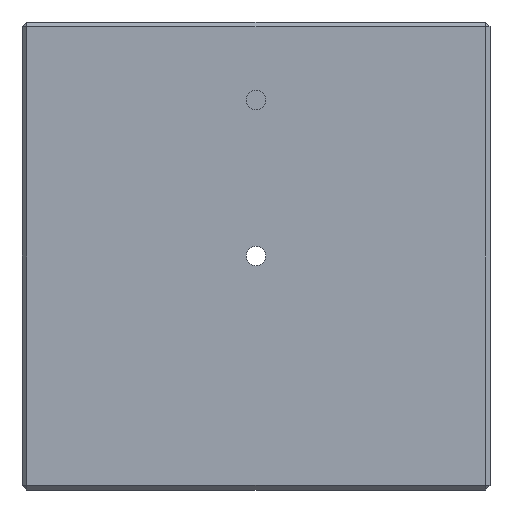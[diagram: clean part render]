
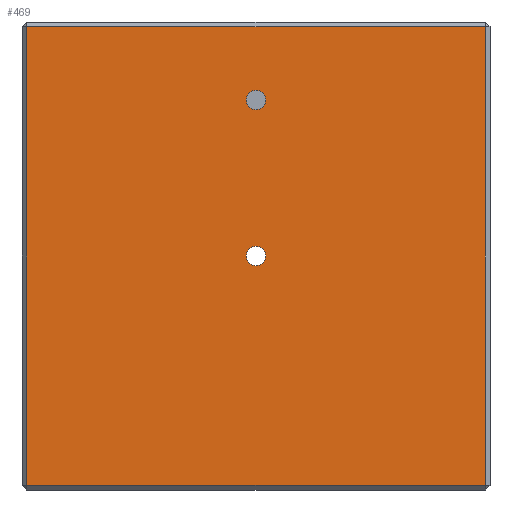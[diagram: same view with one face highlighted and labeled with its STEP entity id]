
A CAD part, front view. The second image highlights one B-rep face of the part: STEP entity #469.
In plain terms, the highlighted planar face has unit normal (0, -1, 0).
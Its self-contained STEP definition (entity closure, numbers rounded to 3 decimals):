
#202 = CARTESIAN_POINT ( 'NONE',  ( 75., 0., -73.5 ) ) ;
#233 = VERTEX_POINT ( 'NONE', #927 ) ;
#267 = CIRCLE ( 'NONE', #641, 3.1 ) ;
#276 = DIRECTION ( 'NONE',  ( 0., 1., 0. ) ) ;
#460 = VECTOR ( 'NONE', #567, 1000. ) ;
#462 = EDGE_CURVE ( 'NONE', #2369, #2594, #267, .T. ) ;
#469 = ADVANCED_FACE ( 'NONE', ( #3343, #2673, #1821 ), #3114, .F. ) ;
#488 = EDGE_CURVE ( 'NONE', #2551, #3052, #1914, .T. ) ;
#509 = DIRECTION ( 'NONE',  ( 1., 0., 0. ) ) ;
#567 = DIRECTION ( 'NONE',  ( -1., 0., 0. ) ) ;
#589 = DIRECTION ( 'NONE',  ( 0., 0., 1. ) ) ;
#641 = AXIS2_PLACEMENT_3D ( 'NONE', #3717, #3018, #3082 ) ;
#681 = CARTESIAN_POINT ( 'NONE',  ( 0., 0., 46.9 ) ) ;
#820 = DIRECTION ( 'NONE',  ( 0., 0., 1. ) ) ;
#903 = CARTESIAN_POINT ( 'NONE',  ( 0., 0., 3.1 ) ) ;
#916 = VECTOR ( 'NONE', #509, 1000. ) ;
#919 = DIRECTION ( 'NONE',  ( 0., 0., -1. ) ) ;
#927 = CARTESIAN_POINT ( 'NONE',  ( 0., 0., 53.1 ) ) ;
#974 = AXIS2_PLACEMENT_3D ( 'NONE', #3713, #276, #589 ) ;
#1057 = ORIENTED_EDGE ( 'NONE', *, *, #1309, .T. ) ;
#1064 = LINE ( 'NONE', #202, #916 ) ;
#1090 = VERTEX_POINT ( 'NONE', #681 ) ;
#1216 = CARTESIAN_POINT ( 'NONE',  ( -73.5, 0., 0. ) ) ;
#1303 = AXIS2_PLACEMENT_3D ( 'NONE', #3670, #1678, #3399 ) ;
#1309 = EDGE_CURVE ( 'NONE', #233, #1090, #3610, .T. ) ;
#1332 = EDGE_CURVE ( 'NONE', #1696, #2551, #3476, .T. ) ;
#1412 = DIRECTION ( 'NONE',  ( 0., 0., 1. ) ) ;
#1604 = EDGE_CURVE ( 'NONE', #2594, #2369, #2745, .T. ) ;
#1678 = DIRECTION ( 'NONE',  ( 0., 1., 0. ) ) ;
#1696 = VERTEX_POINT ( 'NONE', #2500 ) ;
#1754 = ORIENTED_EDGE ( 'NONE', *, *, #2164, .T. ) ;
#1768 = AXIS2_PLACEMENT_3D ( 'NONE', #3437, #2620, #820 ) ;
#1821 = FACE_BOUND ( 'NONE', #2184, .T. ) ;
#1841 = ORIENTED_EDGE ( 'NONE', *, *, #1604, .T. ) ;
#1884 = CIRCLE ( 'NONE', #974, 3.1 ) ;
#1914 = LINE ( 'NONE', #2407, #460 ) ;
#1932 = CARTESIAN_POINT ( 'NONE',  ( 73.5, 0., 73.5 ) ) ;
#1987 = VERTEX_POINT ( 'NONE', #3286 ) ;
#2131 = DIRECTION ( 'NONE',  ( 0., 0., 1. ) ) ;
#2164 = EDGE_CURVE ( 'NONE', #1987, #1696, #1064, .T. ) ;
#2184 = EDGE_LOOP ( 'NONE', ( #1841, #3363 ) ) ;
#2246 = CARTESIAN_POINT ( 'NONE',  ( 73.5, 0., 75. ) ) ;
#2331 = ORIENTED_EDGE ( 'NONE', *, *, #488, .T. ) ;
#2369 = VERTEX_POINT ( 'NONE', #903 ) ;
#2407 = CARTESIAN_POINT ( 'NONE',  ( 0., 0., 73.5 ) ) ;
#2414 = ORIENTED_EDGE ( 'NONE', *, *, #3179, .T. ) ;
#2500 = CARTESIAN_POINT ( 'NONE',  ( 73.5, 0., -73.5 ) ) ;
#2505 = ORIENTED_EDGE ( 'NONE', *, *, #3285, .T. ) ;
#2551 = VERTEX_POINT ( 'NONE', #1932 ) ;
#2594 = VERTEX_POINT ( 'NONE', #2912 ) ;
#2620 = DIRECTION ( 'NONE',  ( 0., 1., 0. ) ) ;
#2673 = FACE_BOUND ( 'NONE', #2965, .T. ) ;
#2745 = CIRCLE ( 'NONE', #1768, 3.1 ) ;
#2911 = EDGE_LOOP ( 'NONE', ( #3660, #2331, #2414, #1754 ) ) ;
#2912 = CARTESIAN_POINT ( 'NONE',  ( 0., 0., -3.1 ) ) ;
#2965 = EDGE_LOOP ( 'NONE', ( #2505, #1057 ) ) ;
#2998 = VECTOR ( 'NONE', #919, 1000. ) ;
#3010 = AXIS2_PLACEMENT_3D ( 'NONE', #3101, #3607, #1412 ) ;
#3018 = DIRECTION ( 'NONE',  ( 0., 1., 0. ) ) ;
#3052 = VERTEX_POINT ( 'NONE', #3675 ) ;
#3082 = DIRECTION ( 'NONE',  ( 0., 0., 1. ) ) ;
#3101 = CARTESIAN_POINT ( 'NONE',  ( 0., 0., 0. ) ) ;
#3114 = PLANE ( 'NONE',  #3010 ) ;
#3179 = EDGE_CURVE ( 'NONE', #3052, #1987, #3661, .T. ) ;
#3285 = EDGE_CURVE ( 'NONE', #1090, #233, #1884, .T. ) ;
#3286 = CARTESIAN_POINT ( 'NONE',  ( -73.5, 0., -73.5 ) ) ;
#3343 = FACE_OUTER_BOUND ( 'NONE', #2911, .T. ) ;
#3363 = ORIENTED_EDGE ( 'NONE', *, *, #462, .T. ) ;
#3399 = DIRECTION ( 'NONE',  ( 0., 0., 1. ) ) ;
#3437 = CARTESIAN_POINT ( 'NONE',  ( 0., 0., 0. ) ) ;
#3476 = LINE ( 'NONE', #2246, #3579 ) ;
#3579 = VECTOR ( 'NONE', #2131, 1000. ) ;
#3607 = DIRECTION ( 'NONE',  ( 0., 1., 0. ) ) ;
#3610 = CIRCLE ( 'NONE', #1303, 3.1 ) ;
#3660 = ORIENTED_EDGE ( 'NONE', *, *, #1332, .T. ) ;
#3661 = LINE ( 'NONE', #1216, #2998 ) ;
#3670 = CARTESIAN_POINT ( 'NONE',  ( 0., 0., 50. ) ) ;
#3675 = CARTESIAN_POINT ( 'NONE',  ( -73.5, 0., 73.5 ) ) ;
#3713 = CARTESIAN_POINT ( 'NONE',  ( 0., 0., 50. ) ) ;
#3717 = CARTESIAN_POINT ( 'NONE',  ( 0., 0., 0. ) ) ;
